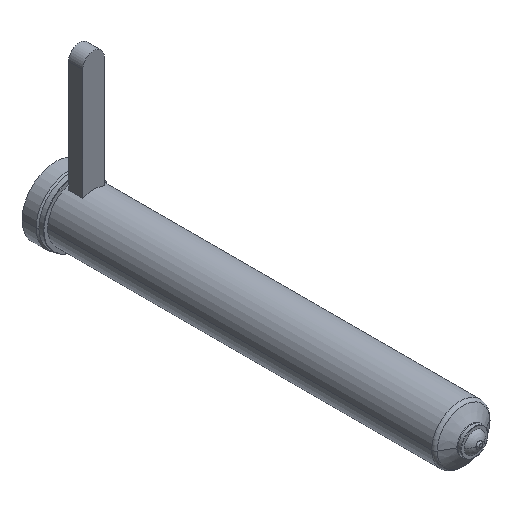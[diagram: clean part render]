
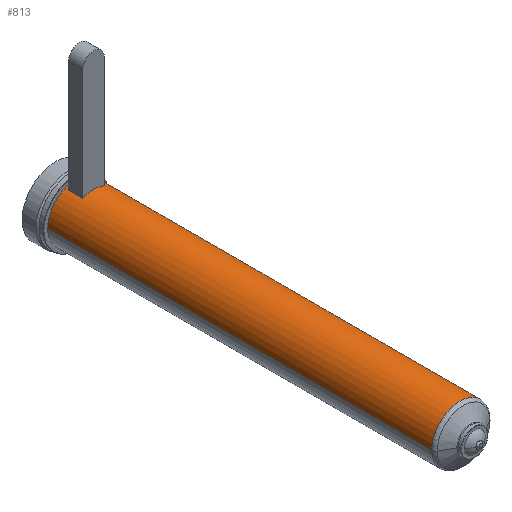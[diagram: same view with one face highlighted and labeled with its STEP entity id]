
A CAD part, isometric view. The second image highlights one B-rep face of the part: STEP entity #813.
In plain terms, the highlighted cylindrical face has radius 21 mm (diameter 42 mm), a partial arc.
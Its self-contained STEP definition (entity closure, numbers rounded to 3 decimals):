
#199=DIRECTION('',(0.,-1.,0.));
#200=VECTOR('',#199,284.528);
#201=CARTESIAN_POINT('',(21.,0.,0.));
#202=LINE('',#201,#200);
#203=CARTESIAN_POINT('',(0.,-284.528,0.));
#204=DIRECTION('',(0.,1.,0.));
#205=DIRECTION('',(-1.,0.,0.));
#206=AXIS2_PLACEMENT_3D('',#203,#204,#205);
#208=DIRECTION('',(0.,1.,0.));
#209=VECTOR('',#208,284.528);
#210=CARTESIAN_POINT('',(-21.,-284.528,0.));
#211=LINE('',#210,#209);
#212=CARTESIAN_POINT('',(0.,0.,0.));
#213=DIRECTION('',(0.,1.,0.));
#214=DIRECTION('',(-1.,0.,0.));
#215=AXIS2_PLACEMENT_3D('',#212,#213,#214);
#379=DIRECTION('',(0.,-1.,0.));
#380=VECTOR('',#379,10.5);
#381=CARTESIAN_POINT('',(-8.,-2.5,19.416));
#382=LINE('',#381,#380);
#383=CARTESIAN_POINT('',(0.,-13.,0.));
#384=DIRECTION('',(0.,1.,0.));
#385=DIRECTION('',(-0.381,0.,0.925));
#386=AXIS2_PLACEMENT_3D('',#383,#384,#385);
#409=CARTESIAN_POINT('',(0.,-2.5,0.));
#410=DIRECTION('',(0.,-1.,0.));
#411=DIRECTION('',(0.381,0.,0.925));
#412=AXIS2_PLACEMENT_3D('',#409,#410,#411);
#427=DIRECTION('',(0.,-1.,0.));
#428=VECTOR('',#427,10.5);
#429=CARTESIAN_POINT('',(8.,-2.5,19.416));
#430=LINE('',#429,#428);
#488=CARTESIAN_POINT('',(-21.,0.,0.));
#489=CARTESIAN_POINT('',(21.,0.,0.));
#490=VERTEX_POINT('',#488);
#491=VERTEX_POINT('',#489);
#500=CARTESIAN_POINT('',(-8.,-2.5,19.416));
#501=VERTEX_POINT('',#500);
#502=CARTESIAN_POINT('',(8.,-2.5,19.416));
#503=VERTEX_POINT('',#502);
#540=CARTESIAN_POINT('',(21.,-284.528,0.));
#541=VERTEX_POINT('',#540);
#550=CARTESIAN_POINT('',(-21.,-284.528,0.));
#551=VERTEX_POINT('',#550);
#572=CARTESIAN_POINT('',(-8.,-13.,19.416));
#573=CARTESIAN_POINT('',(8.,-13.,19.416));
#574=VERTEX_POINT('',#572);
#575=VERTEX_POINT('',#573);
#791=CARTESIAN_POINT('',(0.,16.4,0.));
#792=DIRECTION('',(0.,-1.,0.));
#793=DIRECTION('',(-1.,0.,0.));
#794=AXIS2_PLACEMENT_3D('',#791,#792,#793);
#795=CYLINDRICAL_SURFACE('',#794,21.);
#796=ORIENTED_EDGE('',*,*,#785,.T.);
#798=ORIENTED_EDGE('',*,*,#797,.F.);
#799=ORIENTED_EDGE('',*,*,#781,.T.);
#800=ORIENTED_EDGE('',*,*,#771,.T.);
#801=EDGE_LOOP('',(#796,#798,#799,#800));
#802=FACE_OUTER_BOUND('',#801,.F.);
#804=ORIENTED_EDGE('',*,*,#803,.T.);
#806=ORIENTED_EDGE('',*,*,#805,.T.);
#808=ORIENTED_EDGE('',*,*,#807,.F.);
#810=ORIENTED_EDGE('',*,*,#809,.T.);
#811=EDGE_LOOP('',(#804,#806,#808,#810));
#812=FACE_BOUND('',#811,.F.);
#813=ADVANCED_FACE('',(#802,#812),#795,.T.);
#207=CIRCLE('',#206,21.);
#216=CIRCLE('',#215,21.);
#387=CIRCLE('',#386,21.);
#413=CIRCLE('',#412,21.);
#771=EDGE_CURVE('',#490,#491,#216,.T.);
#781=EDGE_CURVE('',#551,#490,#211,.T.);
#785=EDGE_CURVE('',#491,#541,#202,.T.);
#797=EDGE_CURVE('',#551,#541,#207,.T.);
#803=EDGE_CURVE('',#501,#574,#382,.T.);
#805=EDGE_CURVE('',#574,#575,#387,.T.);
#807=EDGE_CURVE('',#503,#575,#430,.T.);
#809=EDGE_CURVE('',#503,#501,#413,.T.);
